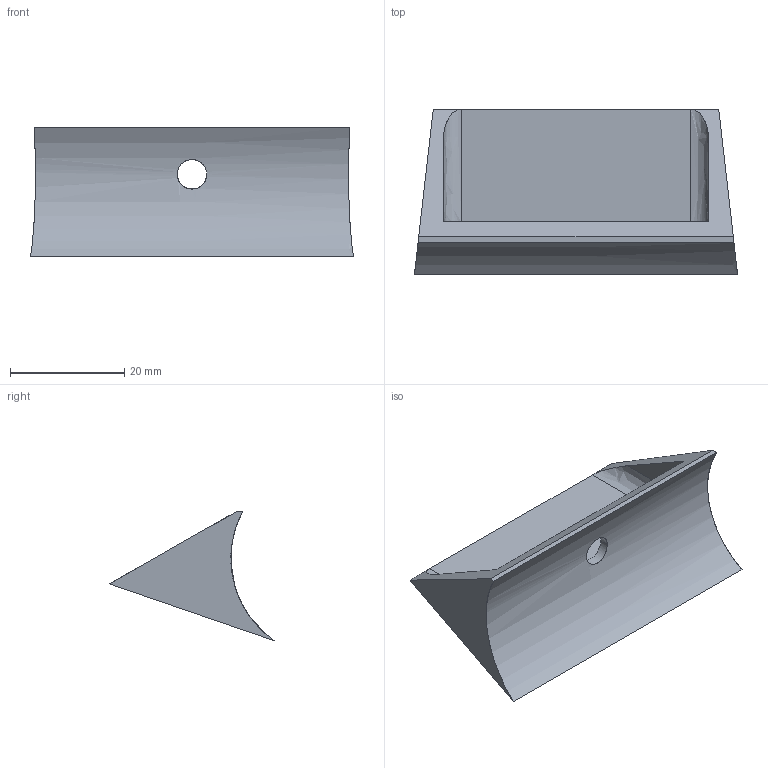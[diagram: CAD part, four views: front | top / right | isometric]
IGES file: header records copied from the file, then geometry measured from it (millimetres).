
Start section: 3D InterOp IGES (Version 21 0 3), Spatial Corp. Copyright (c) 1999-2007.
Global section: file name: CSR ANKLE CYLINDER WEDGE - 20140610.igs; native system: Spatial Corp.; preprocessor: 3D InterOp GENERIC/IGES 3.0; author: Noname; organization: Noname; date: 20140621.121932; units: inch
Bounding box: 56.57 x 28.92 x 22.7 mm (x, y, z)
Surface area: 5461.4 mm2 (no closed solid volume)
Topology: 0 solids, 0 shells, 14 faces, 68 edges, 68 vertices
Faces by surface type: extrusion 9, revolution 5
